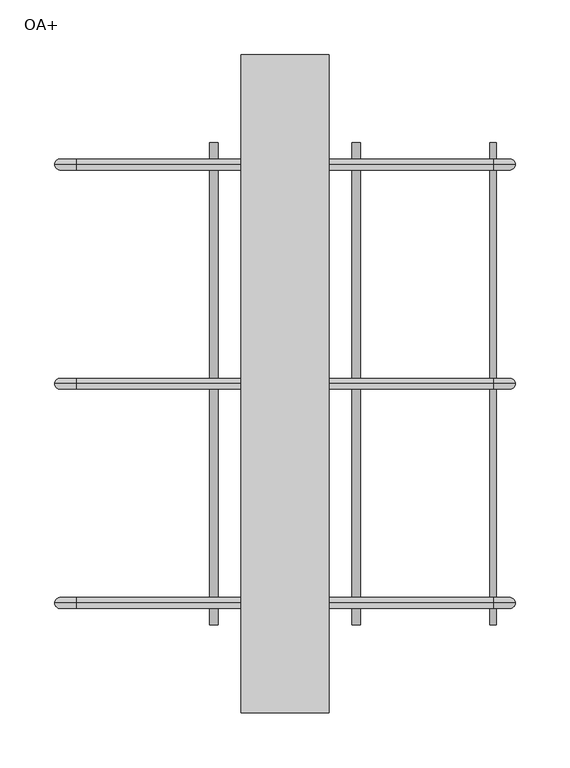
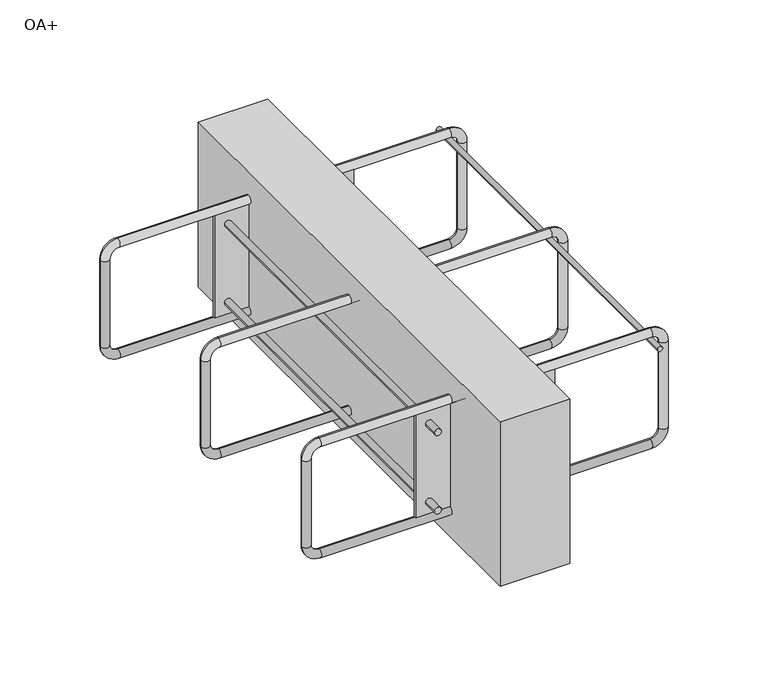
"""IFC4 building model written with IfcOpenShell, lengths in millimetres: proxy geometry, ACINOXplus_Typenreihe_Ux-Ox : OA+."""

import ifcopenshell
import ifcopenshell.guid

model = None  # the IFC model being written
_history = None  # IfcOwnerHistory: only IFC2X3 demands one
_inside = {}  # id of a spatial element -> (the spatial element, [elements in it])
_under = {}  # id of a project, library or spatial element -> (it, [spatial elements below it])
_declared = {}  # id of a project -> (the project, [libraries it declares])
_typed = {}  # id of a type object -> (the type object, [elements of that type])
_made_of = {}  # id of a material, layer set ... -> (it, [elements and type objects made of it])


def new_model(schema):
    """Start an empty IFC model of exactly this schema.

    Asked for "IFC4X3", IfcOpenShell would pick the latest addendum, in which some entities
    have other attributes; the version numbers below select the first issue.
    IFC2X3 requires an IfcOwnerHistory on every rooted entity: one is made here for all.
    """
    global model, _history
    if schema == "IFC4X3":
        model = ifcopenshell.file(schema_version=(4, 3, 0, 0))
    else:
        model = ifcopenshell.file(schema=schema)
    _inside.clear()
    _under.clear()
    _declared.clear()
    _typed.clear()
    _made_of.clear()
    _history = None
    if model.schema == "IFC2X3":
        org = make("IfcOrganization", Name="unknown")
        user = make(
            "IfcPersonAndOrganization",
            ThePerson=make("IfcPerson", FamilyName="unknown"),
            TheOrganization=org,
        )
        app = make(
            "IfcApplication",
            ApplicationDeveloper=org,
            Version="unknown",
            ApplicationFullName="unknown",
            ApplicationIdentifier="unknown",
        )
        _history = make(
            "IfcOwnerHistory",
            OwningUser=user,
            OwningApplication=app,
            ChangeAction="ADDED",
            CreationDate=0,
        )
    return model


def make(cls, **values):
    """One entity of the class cls with the attributes given. An attribute that is None is left unset."""
    return model.create_entity(
        cls, **{name: value for name, value in values.items() if value is not None}
    )


def rooted(cls, **values):
    """An entity with a GlobalId (a new one), such as an element, a storey or a relation."""
    return make(cls, GlobalId=ifcopenshell.guid.new(), OwnerHistory=_history, **values)


def si_unit(unit_type, name, prefix=None):
    """IfcSIUnit, for example si_unit("LENGTHUNIT", "METRE", prefix="MILLI")."""
    return make("IfcSIUnit", UnitType=unit_type, Prefix=prefix, Name=name)


def assignment(units):
    """IfcUnitAssignment: the units of a project."""
    return None if units is None else make("IfcUnitAssignment", Units=units)


def point(xyz):
    """IfcCartesianPoint."""
    return None if xyz is None else make("IfcCartesianPoint", Coordinates=xyz)


def direction(xyz):
    """IfcDirection."""
    return None if xyz is None else make("IfcDirection", DirectionRatios=xyz)


def frame(location, z_axis=None, x_axis=None):
    """IfcAxis2Placement3D, a coordinate frame: its origin and axes. An axis left out is left unset."""
    return make(
        "IfcAxis2Placement3D",
        Location=point(location),
        Axis=direction(z_axis),
        RefDirection=direction(x_axis),
    )


def frame_2d(location, x_axis=None):
    """IfcAxis2Placement2D, a coordinate frame in the plane: its origin and x axis."""
    return make(
        "IfcAxis2Placement2D", Location=point(location), RefDirection=direction(x_axis)
    )


def origin():
    """The frame at (0, 0, 0) with its axes left unset."""
    return frame((0.0, 0.0, 0.0))


def place(relative_to, where):
    """IfcLocalPlacement: puts the frame where relative to a parent placement (None: the world)."""
    return make(
        "IfcLocalPlacement", PlacementRelTo=relative_to, RelativePlacement=where
    )


def context(
    kind, dimensions, precision=None, world=None, true_north=None, identifier=None
):
    """IfcGeometricRepresentationContext, for example the 3D "Model" context."""
    return make(
        "IfcGeometricRepresentationContext",
        ContextIdentifier=identifier,
        ContextType=kind,
        CoordinateSpaceDimension=dimensions,
        Precision=precision,
        WorldCoordinateSystem=world,
        TrueNorth=true_north,
    )


def project(units=None, contexts=None):
    """IfcProject with its units and contexts."""
    return rooted(
        "IfcProject",
        Name="project",
        RepresentationContexts=contexts,
        UnitsInContext=assignment(units),
    )


def spatial(cls, under=None, at=None, **own):
    """A site, building, storey or space (cls), placed at a placement, below another one or the project."""
    s = rooted(cls, ObjectPlacement=at, **own)
    if under is not None:
        _under.setdefault(under.id(), (under, []))[1].append(s)
    return s


def polyline(points):
    """IfcPolyline through the points."""
    return make("IfcPolyline", Points=[point(p) for p in points])


def circle_curve(where, radius):
    """IfcCircle in the frame where."""
    return make("IfcCircle", Position=where, Radius=radius)


def ellipse_curve(where, semi_axis1, semi_axis2):
    """IfcEllipse in the frame where."""
    return make(
        "IfcEllipse", Position=where, SemiAxis1=semi_axis1, SemiAxis2=semi_axis2
    )


def trimmed(basis, trim1, trim2, sense, master):
    """IfcTrimmedCurve: the piece of a basis curve between two trims."""
    return make(
        "IfcTrimmedCurve",
        BasisCurve=basis,
        Trim1=trim1,
        Trim2=trim2,
        SenseAgreement=sense,
        MasterRepresentation=master,
    )


def segment(curve, same_sense, transition):
    """IfcCompositeCurveSegment."""
    return make(
        "IfcCompositeCurveSegment",
        Transition=transition,
        SameSense=same_sense,
        ParentCurve=curve,
    )


def composite_curve(segments, self_intersect=None):
    """IfcCompositeCurve: segments joined end to end."""
    return make("IfcCompositeCurve", Segments=segments, SelfIntersect=self_intersect)


def outline(outer, holes=None, kind="AREA"):
    """IfcArbitraryClosedProfileDef: a profile drawn as a closed curve; with holes, ...WithVoids."""
    if holes is None:
        return make("IfcArbitraryClosedProfileDef", ProfileType=kind, OuterCurve=outer)
    return make(
        "IfcArbitraryProfileDefWithVoids",
        ProfileType=kind,
        OuterCurve=outer,
        InnerCurves=holes,
    )


def extrude(swept, where, along, depth):
    """IfcExtrudedAreaSolid: the profile swept, set in the frame where, extruded along a direction by depth."""
    return make(
        "IfcExtrudedAreaSolid",
        SweptArea=swept,
        Position=where,
        ExtrudedDirection=direction(along),
        Depth=depth,
    )


def shape(context_of_items, identifier, shape_type, items):
    """IfcShapeRepresentation: the items that make up one representation, for example the "Body"."""
    return make(
        "IfcShapeRepresentation",
        ContextOfItems=context_of_items,
        RepresentationIdentifier=identifier,
        RepresentationType=shape_type,
        Items=items,
    )


def source(mapping_origin, context_of_items, identifier, shape_type, items):
    """IfcRepresentationMap: a shape defined once, which mapped items show again and again."""
    return make(
        "IfcRepresentationMap",
        MappingOrigin=mapping_origin,
        MappedRepresentation=shape(context_of_items, identifier, shape_type, items),
    )


def transform(
    local_origin,
    x_axis=None,
    y_axis=None,
    z_axis=None,
    scale=None,
    scale2=None,
    scale3=None,
    uniform=True,
):
    """IfcCartesianTransformationOperator3D, or its non-uniform kind. x_axis, y_axis, z_axis: its Axis1, 2, 3."""
    if uniform:
        return make(
            "IfcCartesianTransformationOperator3D",
            Axis1=direction(x_axis),
            Axis2=direction(y_axis),
            LocalOrigin=point(local_origin),
            Scale=scale,
            Axis3=direction(z_axis),
        )
    return make(
        "IfcCartesianTransformationOperator3DnonUniform",
        Axis1=direction(x_axis),
        Axis2=direction(y_axis),
        LocalOrigin=point(local_origin),
        Scale=scale,
        Axis3=direction(z_axis),
        Scale2=scale2,
        Scale3=scale3,
    )


def mapped(mapping_source, mapping_target):
    """IfcMappedItem: shows the shape of a source again, moved by a transform."""
    return make(
        "IfcMappedItem", MappingSource=mapping_source, MappingTarget=mapping_target
    )


def made_of(thing, what):
    """Note that an element or type object is made of a material, layer set ...; save() writes the relation."""
    if what is not None:
        _made_of.setdefault(what.id(), (what, []))[1].append(thing)
    return thing


def element(
    cls,
    number,
    at=None,
    inside=None,
    cuts=None,
    type_object=None,
    material=None,
    context=None,
    identifier="Body",
    shape_type=None,
    held_by="IfcProductDefinitionShape",
    body=None,
    shapes=None,
    **own,
):
    """One element of the class cls, such as IfcWall. Its Tag is "e" and its number.

    at: its placement. inside: the storey or other place that contains it. cuts: it is an
    opening in that element (IfcRelVoidsElement). A single representation is given by context,
    identifier, shape_type and body (its items); several are given by shapes. held_by: the class
    of the entity that holds the representations. save() writes the other relations.
    """
    e = rooted(cls, Tag="e%d" % number, ObjectPlacement=at, **own)
    if body is not None:
        shapes = [shape(context, identifier, shape_type, body)]
    if shapes is not None:
        e.Representation = make(held_by, Representations=shapes)
    if inside is not None:
        _inside.setdefault(inside.id(), (inside, []))[1].append(e)
    if cuts is not None:
        rooted(
            "IfcRelVoidsElement", RelatingBuildingElement=cuts, RelatedOpeningElement=e
        )
    if type_object is not None:
        _typed.setdefault(type_object.id(), (type_object, []))[1].append(e)
    return made_of(e, material)


def aggregate(whole, parts):
    """IfcRelAggregates: a whole, such as a stair, and the parts it consists of."""
    return rooted("IfcRelAggregates", RelatingObject=whole, RelatedObjects=parts)


def save(model, path):
    """Write the relations noted so far, then the file.

    IfcRelAggregates (storeys below a building ...), IfcRelContainedInSpatialStructure (elements
    in a storey), IfcRelDefinesByType, IfcRelAssociatesMaterial and IfcRelDeclares: one each for
    every whole, place, type object, material and project.
    """
    for whole, parts in _under.values():
        aggregate(whole, parts)
    for where, things in _inside.values():
        rooted(
            "IfcRelContainedInSpatialStructure",
            RelatedElements=things,
            RelatingStructure=where,
        )
    for kind, things in _typed.values():
        rooted("IfcRelDefinesByType", RelatedObjects=things, RelatingType=kind)
    for what, things in _made_of.values():
        rooted("IfcRelAssociatesMaterial", RelatedObjects=things, RelatingMaterial=what)
    for by, libraries in _declared.values():
        rooted("IfcRelDeclares", RelatingContext=by, RelatedDefinitions=libraries)
    model.write(path)


def cylinder_surface(at, radius):
    """IfcCylindricalSurface: all points at the distance radius from the z axis of the frame at."""
    return make("IfcCylindricalSurface", Position=at, Radius=radius)


def revolved_surface(curve, axis_point, axis_direction):
    """IfcSurfaceOfRevolution: the curve turned about the line through axis_point along axis_direction."""
    return make(
        "IfcSurfaceOfRevolution",
        SweptCurve=make("IfcArbitraryOpenProfileDef", ProfileType="CURVE", Curve=curve),
        AxisPosition=make("IfcAxis1Placement", Location=point(axis_point), Axis=direction(axis_direction)),
    )


def advanced_brep(points, edges, surfaces, faces):
    """IfcAdvancedBrep: a solid bounded by faces that lie on surfaces and meet in shared edges.

    An edge is (start, end): straight between two places in points (the first is 0);
    or (start, end, curve); or (start, end, curve, False) where it runs against its curve.
    A face is (place in surfaces, loops), or (place, loops, False) where it looks against
    its surface's normal. A loop lists edges by number (the first is 1), with a minus sign
    where the edge is run from its end to its start. The first loop is the outer one.
    """
    corners = [point(p) for p in points]
    vertices = [make("IfcVertexPoint", VertexGeometry=c) for c in corners]
    made = []
    for start, end, *more in edges:
        made.append(
            make(
                "IfcEdgeCurve",
                EdgeStart=vertices[start],
                EdgeEnd=vertices[end],
                EdgeGeometry=more[0] if more else make("IfcPolyline", Points=[corners[start], corners[end]]),
                SameSense=more[1] if len(more) > 1 else True,
            )
        )
    hull = []
    for where, loops, *sense in faces:
        bounds = []
        for j, loop in enumerate(loops):
            ring = [make("IfcOrientedEdge", EdgeElement=made[abs(k) - 1], Orientation=k > 0) for k in loop]
            bounds.append(
                make(
                    "IfcFaceOuterBound" if j == 0 else "IfcFaceBound",
                    Bound=make("IfcEdgeLoop", EdgeList=ring),
                    Orientation=True,
                )
            )
        hull.append(make("IfcAdvancedFace", Bounds=bounds, FaceSurface=surfaces[where], SameSense=sense[0] if sense else True))
    return make("IfcAdvancedBrep", Outer=make("IfcClosedShell", CfsFaces=hull))


def oa_9b1914af(model_context):
    return source(origin(), model_context, "Body", "SolidModel", [
        extrude(outline(composite_curve([segment(trimmed(circle_curve(frame_2d((-40.5, 190.0)), 3.0), [point((-40.5, 193.0))], [point((-40.5, 187.0))], False, "CARTESIAN"), True, "CONTINUOUS"), segment(trimmed(circle_curve(frame_2d((-40.5, 190.0)), 3.0), [point((-40.5, 187.0))], [point((-40.5, 193.0))], False, "CARTESIAN"), True, "CONTINUOUS")], self_intersect=False)), frame((0.0, -220.0, 0.0), z_axis=(0.0, 1.0, 0.0), x_axis=(0.0, 0.0, 1.0)), (0.0, 0.0, 1.0), 440.0),
        extrude(outline(polyline([(40.0, 300.0), (40.0, -300.0), (-40.0, -300.0), (-40.0, 300.0), (40.0, 300.0)])), frame((0.0, 0.0, -200.0), z_axis=(0.0, 0.0, 1.0), x_axis=(1.0, 0.0, 0.0)), (0.0, 0.0, 1.0), 200.0),
        extrude(outline(polyline([(80.0, -198.5), (80.0, -201.5), (-80.0, -201.5), (-80.0, -198.5), (80.0, -198.5)])), frame((0.0, 0.0, -162.5), z_axis=(0.0, 0.0, 1.0), x_axis=(1.0, 0.0, 0.0)), (0.0, 0.0, 1.0), 125.0),
        extrude(outline(polyline([(80.0, 201.5), (80.0, 198.5), (-80.0, 198.5), (-80.0, 201.5), (80.0, 201.5)])), frame((0.0, 0.0, -162.5), z_axis=(0.0, 0.0, 1.0), x_axis=(1.0, 0.0, 0.0)), (0.0, 0.0, 1.0), 125.0),
        extrude(outline(composite_curve([segment(trimmed(circle_curve(frame_2d((-147.5, -65.0)), 4.0), [point((-147.5, -69.0))], [point((-147.5, -61.0))], False, "CARTESIAN"), True, "CONTINUOUS"), segment(trimmed(circle_curve(frame_2d((-147.5, -65.0)), 4.0), [point((-147.5, -61.0))], [point((-147.5, -69.0))], False, "CARTESIAN"), True, "CONTINUOUS")], self_intersect=False)), frame((0.0, 201.5, 0.0), z_axis=(0.0, 1.0, 0.0), x_axis=(0.0, 0.0, 1.0)), (0.0, 0.0, 1.0), 18.5),
        extrude(outline(composite_curve([segment(trimmed(circle_curve(frame_2d((-147.5, -65.0)), 4.0), [point((-147.5, -61.0))], [point((-147.5, -69.0))], False, "CARTESIAN"), True, "CONTINUOUS"), segment(trimmed(circle_curve(frame_2d((-147.5, -65.0)), 4.0), [point((-147.5, -69.0))], [point((-147.5, -61.0))], False, "CARTESIAN"), True, "CONTINUOUS")], self_intersect=False)), frame((0.0, -220.0, 0.0), z_axis=(0.0, 1.0, 0.0), x_axis=(0.0, 0.0, 1.0)), (0.0, 0.0, 1.0), 18.5),
        extrude(outline(composite_curve([segment(trimmed(circle_curve(frame_2d((-147.5, -65.0)), 4.0), [point((-147.5, -69.0))], [point((-147.5, -61.0))], False, "CARTESIAN"), True, "CONTINUOUS"), segment(trimmed(circle_curve(frame_2d((-147.5, -65.0)), 4.0), [point((-147.5, -61.0))], [point((-147.5, -69.0))], False, "CARTESIAN"), True, "CONTINUOUS")], self_intersect=False)), frame((0.0, -198.5, 0.0), z_axis=(0.0, 1.0, 0.0), x_axis=(0.0, 0.0, 1.0)), (0.0, 0.0, 1.0), 397.0),
        extrude(outline(composite_curve([segment(trimmed(circle_curve(frame_2d((-147.5, 65.0)), 4.0), [point((-147.5, 61.0))], [point((-147.5, 69.0))], False, "CARTESIAN"), True, "CONTINUOUS"), segment(trimmed(circle_curve(frame_2d((-147.5, 65.0)), 4.0), [point((-147.5, 69.0))], [point((-147.5, 61.0))], False, "CARTESIAN"), True, "CONTINUOUS")], self_intersect=False)), frame((0.0, 201.5, 0.0), z_axis=(0.0, 1.0, 0.0), x_axis=(0.0, 0.0, 1.0)), (0.0, 0.0, 1.0), 18.5),
        extrude(outline(composite_curve([segment(trimmed(circle_curve(frame_2d((-147.5, 65.0)), 4.0), [point((-147.5, 69.0))], [point((-147.5, 61.0))], False, "CARTESIAN"), True, "CONTINUOUS"), segment(trimmed(circle_curve(frame_2d((-147.5, 65.0)), 4.0), [point((-147.5, 61.0))], [point((-147.5, 69.0))], False, "CARTESIAN"), True, "CONTINUOUS")], self_intersect=False)), frame((0.0, -220.0, 0.0), z_axis=(0.0, 1.0, 0.0), x_axis=(0.0, 0.0, 1.0)), (0.0, 0.0, 1.0), 18.5),
        extrude(outline(composite_curve([segment(trimmed(circle_curve(frame_2d((-147.5, 65.0)), 4.0), [point((-147.5, 61.0))], [point((-147.5, 69.0))], False, "CARTESIAN"), True, "CONTINUOUS"), segment(trimmed(circle_curve(frame_2d((-147.5, 65.0)), 4.0), [point((-147.5, 69.0))], [point((-147.5, 61.0))], False, "CARTESIAN"), True, "CONTINUOUS")], self_intersect=False)), frame((0.0, -198.5, 0.0), z_axis=(0.0, 1.0, 0.0), x_axis=(0.0, 0.0, 1.0)), (0.0, 0.0, 1.0), 397.0),
        extrude(outline(composite_curve([segment(trimmed(circle_curve(frame_2d((-52.5, -65.0)), 4.0), [point((-52.5, -69.0))], [point((-52.5, -61.0))], False, "CARTESIAN"), True, "CONTINUOUS"), segment(trimmed(circle_curve(frame_2d((-52.5, -65.0)), 4.0), [point((-52.5, -61.0))], [point((-52.5, -69.0))], False, "CARTESIAN"), True, "CONTINUOUS")], self_intersect=False)), frame((0.0, 201.5, 0.0), z_axis=(0.0, 1.0, 0.0), x_axis=(0.0, 0.0, 1.0)), (0.0, 0.0, 1.0), 18.5),
        extrude(outline(composite_curve([segment(trimmed(circle_curve(frame_2d((-52.5, -65.0)), 4.0), [point((-52.5, -61.0))], [point((-52.5, -69.0))], False, "CARTESIAN"), True, "CONTINUOUS"), segment(trimmed(circle_curve(frame_2d((-52.5, -65.0)), 4.0), [point((-52.5, -69.0))], [point((-52.5, -61.0))], False, "CARTESIAN"), True, "CONTINUOUS")], self_intersect=False)), frame((0.0, -220.0, 0.0), z_axis=(0.0, 1.0, 0.0), x_axis=(0.0, 0.0, 1.0)), (0.0, 0.0, 1.0), 18.5),
        extrude(outline(composite_curve([segment(trimmed(circle_curve(frame_2d((-52.5, -65.0)), 4.0), [point((-52.5, -69.0))], [point((-52.5, -61.0))], False, "CARTESIAN"), True, "CONTINUOUS"), segment(trimmed(circle_curve(frame_2d((-52.5, -65.0)), 4.0), [point((-52.5, -61.0))], [point((-52.5, -69.0))], False, "CARTESIAN"), True, "CONTINUOUS")], self_intersect=False)), frame((0.0, -198.5, 0.0), z_axis=(0.0, 1.0, 0.0), x_axis=(0.0, 0.0, 1.0)), (0.0, 0.0, 1.0), 397.0),
        extrude(outline(composite_curve([segment(trimmed(circle_curve(frame_2d((-52.5, 65.0)), 4.0), [point((-52.5, 61.0))], [point((-52.5, 69.0))], False, "CARTESIAN"), True, "CONTINUOUS"), segment(trimmed(circle_curve(frame_2d((-52.5, 65.0)), 4.0), [point((-52.5, 69.0))], [point((-52.5, 61.0))], False, "CARTESIAN"), True, "CONTINUOUS")], self_intersect=False)), frame((0.0, 201.5, 0.0), z_axis=(0.0, 1.0, 0.0), x_axis=(0.0, 0.0, 1.0)), (0.0, 0.0, 1.0), 18.5),
        extrude(outline(composite_curve([segment(trimmed(circle_curve(frame_2d((-52.5, 65.0)), 4.0), [point((-52.5, 69.0))], [point((-52.5, 61.0))], False, "CARTESIAN"), True, "CONTINUOUS"), segment(trimmed(circle_curve(frame_2d((-52.5, 65.0)), 4.0), [point((-52.5, 61.0))], [point((-52.5, 69.0))], False, "CARTESIAN"), True, "CONTINUOUS")], self_intersect=False)), frame((0.0, -220.0, 0.0), z_axis=(0.0, 1.0, 0.0), x_axis=(0.0, 0.0, 1.0)), (0.0, 0.0, 1.0), 18.5),
        extrude(outline(composite_curve([segment(trimmed(circle_curve(frame_2d((-52.5, 65.0)), 4.0), [point((-52.5, 61.0))], [point((-52.5, 69.0))], False, "CARTESIAN"), True, "CONTINUOUS"), segment(trimmed(circle_curve(frame_2d((-52.5, 65.0)), 4.0), [point((-52.5, 69.0))], [point((-52.5, 61.0))], False, "CARTESIAN"), True, "CONTINUOUS")], self_intersect=False)), frame((0.0, -198.5, 0.0), z_axis=(0.0, 1.0, 0.0), x_axis=(0.0, 0.0, 1.0)), (0.0, 0.0, 1.0), 397.0),
        advanced_brep(
        [(190.0, 0.0, -37.5), (190.0, 0.0, -27.5), (-190.0, 0.0, -27.5), (-190.0, 0.0, -37.5), (-200.0, 0.0, -47.5), (-210.0, 0.0, -47.5), (-210.0, 0.0, -152.5), (-200.0, 0.0, -152.5), (-190.0, 0.0, -162.5), (-190.0, 0.0, -172.5), (190.0, 0.0, -172.5), (190.0, 0.0, -162.5), (200.0, 0.0, -152.5), (210.0, 0.0, -152.5), (210.0, 0.0, -47.5), (200.0, 0.0, -47.5)],
        [
            (0, 1, circle_curve(frame((190.0, 0.0, -32.5), z_axis=(-1.0, 0.0, 0.0), x_axis=(0.0, 0.0, -1.0)), 5.0)),
            (1, 2),
            (2, 3, circle_curve(frame((-190.0, 0.0, -32.5), z_axis=(1.0, 0.0, 0.0), x_axis=(0.0, 0.0, -1.0)), 5.0)),
            (3, 0),
            (1, 0, circle_curve(frame((190.0, 0.0, -32.5), z_axis=(-1.0, 0.0, 0.0), x_axis=(0.0, 0.0, -1.0)), 5.0)),
            (3, 2, circle_curve(frame((-190.0, 0.0, -32.5), z_axis=(1.0, 0.0, 0.0), x_axis=(0.0, 0.0, -1.0)), 5.0)),
            (4, 3, circle_curve(frame((-190.0, 0.0, -47.5), z_axis=(0.0, 1.0, 0.0), x_axis=(0.0, 0.0, 1.0)), 10.0)),
            (2, 5, circle_curve(frame((-190.0, 0.0, -47.5), z_axis=(0.0, -1.0, 0.0), x_axis=(0.0, 0.0, 1.0)), 20.0)),
            (5, 4, circle_curve(frame((-205.0, 0.0, -47.5), z_axis=(0.0, 0.0, 1.0), x_axis=(1.0, 0.0, 0.0)), 5.0)),
            (4, 5, circle_curve(frame((-205.0, 0.0, -47.5), z_axis=(0.0, 0.0, 1.0), x_axis=(1.0, 0.0, 0.0)), 5.0)),
            (5, 6),
            (6, 7, circle_curve(frame((-205.0, 0.0, -152.5), z_axis=(0.0, 0.0, 1.0), x_axis=(1.0, 0.0, 0.0)), 5.0)),
            (7, 4),
            (7, 6, circle_curve(frame((-205.0, 0.0, -152.5), z_axis=(0.0, 0.0, 1.0), x_axis=(1.0, 0.0, 0.0)), 5.0)),
            (8, 7, circle_curve(frame((-190.0, 0.0, -152.5), z_axis=(0.0, 1.0, 0.0), x_axis=(-1.0, 0.0, 0.0)), 10.0)),
            (6, 9, circle_curve(frame((-190.0, 0.0, -152.5), z_axis=(0.0, -1.0, 0.0), x_axis=(-1.0, 0.0, 0.0)), 20.0)),
            (9, 8, circle_curve(frame((-190.0, 0.0, -167.5), z_axis=(-1.0, 0.0, 0.0), x_axis=(0.0, 0.0, 1.0)), 5.0)),
            (8, 9, circle_curve(frame((-190.0, 0.0, -167.5), z_axis=(-1.0, 0.0, 0.0), x_axis=(0.0, 0.0, 1.0)), 5.0)),
            (9, 10),
            (10, 11, circle_curve(frame((190.0, 0.0, -167.5), z_axis=(-1.0, 0.0, 0.0), x_axis=(0.0, 0.0, 1.0)), 5.0)),
            (11, 8),
            (11, 10, circle_curve(frame((190.0, 0.0, -167.5), z_axis=(-1.0, 0.0, 0.0), x_axis=(0.0, 0.0, 1.0)), 5.0)),
            (12, 11, circle_curve(frame((190.0, 0.0, -152.5), z_axis=(0.0, 1.0, 0.0), x_axis=(0.0, 0.0, -1.0)), 10.0)),
            (10, 13, circle_curve(frame((190.0, 0.0, -152.5), z_axis=(0.0, -1.0, 0.0), x_axis=(0.0, 0.0, -1.0)), 20.0)),
            (13, 12, circle_curve(frame((205.0, 0.0, -152.5), z_axis=(0.0, 0.0, -1.0), x_axis=(-1.0, 0.0, 0.0)), 5.0)),
            (12, 13, circle_curve(frame((205.0, 0.0, -152.5), z_axis=(0.0, 0.0, -1.0), x_axis=(-1.0, 0.0, 0.0)), 5.0)),
            (13, 14),
            (14, 15, circle_curve(frame((205.0, 0.0, -47.5), z_axis=(0.0, 0.0, -1.0), x_axis=(-1.0, 0.0, 0.0)), 5.0)),
            (15, 12),
            (15, 14, circle_curve(frame((205.0, 0.0, -47.5), z_axis=(0.0, 0.0, -1.0), x_axis=(-1.0, 0.0, 0.0)), 5.0)),
            (0, 15, circle_curve(frame((190.0, 0.0, -47.5), z_axis=(0.0, 1.0, 0.0), x_axis=(1.0, 0.0, 0.0)), 10.0)),
            (14, 1, circle_curve(frame((190.0, 0.0, -47.5), z_axis=(0.0, -1.0, 0.0), x_axis=(1.0, 0.0, 0.0)), 20.0)),
        ],
        [
            cylinder_surface(frame((190.0, 0.0, -32.5), z_axis=(1.0, 0.0, 0.0), x_axis=(0.0, 0.0, -1.0)), 5.0),
            revolved_surface(trimmed(ellipse_curve(frame((-190.0, 0.0, -32.5), z_axis=(1.0, 0.0, 0.0), x_axis=(0.0, 0.0, -1.0)), 5.0, 5.0), [point((-190.0, 0.0, -27.5))], [point((-190.0, 0.0, -37.5))], True, "CARTESIAN"), (-190.0, 0.0, -47.5), (0.0, -1.0, 0.0)),
            revolved_surface(trimmed(ellipse_curve(frame((-190.0, 0.0, -32.5), z_axis=(1.0, 0.0, 0.0), x_axis=(0.0, 0.0, -1.0)), 5.0, 5.0), [point((-190.0, 0.0, -37.5))], [point((-190.0, 0.0, -27.5))], True, "CARTESIAN"), (-190.0, 0.0, -47.5), (0.0, -1.0, 0.0)),
            cylinder_surface(frame((-205.0, 0.0, -47.5), z_axis=(0.0, 0.0, 1.0), x_axis=(1.0, 0.0, 0.0)), 5.0),
            revolved_surface(trimmed(ellipse_curve(frame((-205.0, 0.0, -152.5), z_axis=(0.0, 0.0, 1.0), x_axis=(1.0, 0.0, 0.0)), 5.0, 5.0), [point((-210.0, 0.0, -152.5))], [point((-200.0, 0.0, -152.5))], True, "CARTESIAN"), (-190.0, 0.0, -152.5), (0.0, -1.0, 0.0)),
            revolved_surface(trimmed(ellipse_curve(frame((-205.0, 0.0, -152.5), z_axis=(0.0, 0.0, 1.0), x_axis=(1.0, 0.0, 0.0)), 5.0, 5.0), [point((-200.0, 0.0, -152.5))], [point((-210.0, 0.0, -152.5))], True, "CARTESIAN"), (-190.0, 0.0, -152.5), (0.0, -1.0, 0.0)),
            cylinder_surface(frame((-190.0, 0.0, -167.5), z_axis=(-1.0, 0.0, 0.0), x_axis=(0.0, 0.0, 1.0)), 5.0),
            revolved_surface(trimmed(ellipse_curve(frame((190.0, 0.0, -167.5), z_axis=(-1.0, 0.0, 0.0), x_axis=(0.0, 0.0, 1.0)), 5.0, 5.0), [point((190.0, 0.0, -172.5))], [point((190.0, 0.0, -162.5))], True, "CARTESIAN"), (190.0, 0.0, -152.5), (0.0, -1.0, 0.0)),
            revolved_surface(trimmed(ellipse_curve(frame((190.0, 0.0, -167.5), z_axis=(-1.0, 0.0, 0.0), x_axis=(0.0, 0.0, 1.0)), 5.0, 5.0), [point((190.0, 0.0, -162.5))], [point((190.0, 0.0, -172.5))], True, "CARTESIAN"), (190.0, 0.0, -152.5), (0.0, -1.0, 0.0)),
            cylinder_surface(frame((205.0, 0.0, -152.5), z_axis=(0.0, 0.0, -1.0), x_axis=(-1.0, 0.0, 0.0)), 5.0),
            revolved_surface(trimmed(ellipse_curve(frame((205.0, 0.0, -47.5), z_axis=(0.0, 0.0, -1.0), x_axis=(-1.0, 0.0, 0.0)), 5.0, 5.0), [point((210.0, 0.0, -47.5))], [point((200.0, 0.0, -47.5))], True, "CARTESIAN"), (190.0, 0.0, -47.5), (0.0, -1.0, 0.0)),
            revolved_surface(trimmed(ellipse_curve(frame((205.0, 0.0, -47.5), z_axis=(0.0, 0.0, -1.0), x_axis=(-1.0, 0.0, 0.0)), 5.0, 5.0), [point((200.0, 0.0, -47.5))], [point((210.0, 0.0, -47.5))], True, "CARTESIAN"), (190.0, 0.0, -47.5), (0.0, -1.0, 0.0)),
        ],
        [
            (0, [[1, 2, 3, 4]]),
            (0, [[5, -4, 6, -2]]),
            (1, [[7, -3, 8, 9]]),
            (2, [[-8, -6, -7, 10]]),
            (3, [[-9, 11, 12, 13]]),
            (3, [[-10, -13, 14, -11]]),
            (4, [[15, -12, 16, 17]]),
            (5, [[-16, -14, -15, 18]]),
            (6, [[-17, 19, 20, 21]]),
            (6, [[-18, -21, 22, -19]]),
            (7, [[23, -20, 24, 25]]),
            (8, [[-24, -22, -23, 26]]),
            (9, [[-25, 27, 28, 29]]),
            (9, [[-26, -29, 30, -27]]),
            (10, [[31, -28, 32, -1]]),
            (11, [[-32, -30, -31, -5]]),
        ],
    ),
        advanced_brep(
        [(190.0, 200.0, -37.5), (190.0, 200.0, -27.5), (-190.0, 200.0, -27.5), (-190.0, 200.0, -37.5), (-200.0, 200.0, -47.5), (-210.0, 200.0, -47.5), (-210.0, 200.0, -152.5), (-200.0, 200.0, -152.5), (-190.0, 200.0, -162.5), (-190.0, 200.0, -172.5), (190.0, 200.0, -172.5), (190.0, 200.0, -162.5), (200.0, 200.0, -152.5), (210.0, 200.0, -152.5), (210.0, 200.0, -47.5), (200.0, 200.0, -47.5)],
        [
            (0, 1, circle_curve(frame((190.0, 200.0, -32.5), z_axis=(-1.0, 0.0, 0.0), x_axis=(0.0, 0.0, -1.0)), 5.0)),
            (1, 2),
            (2, 3, circle_curve(frame((-190.0, 200.0, -32.5), z_axis=(1.0, 0.0, 0.0), x_axis=(0.0, 0.0, -1.0)), 5.0)),
            (3, 0),
            (1, 0, circle_curve(frame((190.0, 200.0, -32.5), z_axis=(-1.0, 0.0, 0.0), x_axis=(0.0, 0.0, -1.0)), 5.0)),
            (3, 2, circle_curve(frame((-190.0, 200.0, -32.5), z_axis=(1.0, 0.0, 0.0), x_axis=(0.0, 0.0, -1.0)), 5.0)),
            (4, 3, circle_curve(frame((-190.0, 200.0, -47.5), z_axis=(0.0, 1.0, 0.0), x_axis=(0.0, 0.0, 1.0)), 10.0)),
            (2, 5, circle_curve(frame((-190.0, 200.0, -47.5), z_axis=(0.0, -1.0, 0.0), x_axis=(0.0, 0.0, 1.0)), 20.0)),
            (5, 4, circle_curve(frame((-205.0, 200.0, -47.5), z_axis=(0.0, 0.0, 1.0), x_axis=(1.0, 0.0, 0.0)), 5.0)),
            (4, 5, circle_curve(frame((-205.0, 200.0, -47.5), z_axis=(0.0, 0.0, 1.0), x_axis=(1.0, 0.0, 0.0)), 5.0)),
            (5, 6),
            (6, 7, circle_curve(frame((-205.0, 200.0, -152.5), z_axis=(0.0, 0.0, 1.0), x_axis=(1.0, 0.0, 0.0)), 5.0)),
            (7, 4),
            (7, 6, circle_curve(frame((-205.0, 200.0, -152.5), z_axis=(0.0, 0.0, 1.0), x_axis=(1.0, 0.0, 0.0)), 5.0)),
            (8, 7, circle_curve(frame((-190.0, 200.0, -152.5), z_axis=(0.0, 1.0, 0.0), x_axis=(-1.0, 0.0, 0.0)), 10.0)),
            (6, 9, circle_curve(frame((-190.0, 200.0, -152.5), z_axis=(0.0, -1.0, 0.0), x_axis=(-1.0, 0.0, 0.0)), 20.0)),
            (9, 8, circle_curve(frame((-190.0, 200.0, -167.5), z_axis=(-1.0, 0.0, 0.0), x_axis=(0.0, 0.0, 1.0)), 5.0)),
            (8, 9, circle_curve(frame((-190.0, 200.0, -167.5), z_axis=(-1.0, 0.0, 0.0), x_axis=(0.0, 0.0, 1.0)), 5.0)),
            (9, 10),
            (10, 11, circle_curve(frame((190.0, 200.0, -167.5), z_axis=(-1.0, 0.0, 0.0), x_axis=(0.0, 0.0, 1.0)), 5.0)),
            (11, 8),
            (11, 10, circle_curve(frame((190.0, 200.0, -167.5), z_axis=(-1.0, 0.0, 0.0), x_axis=(0.0, 0.0, 1.0)), 5.0)),
            (12, 11, circle_curve(frame((190.0, 200.0, -152.5), z_axis=(0.0, 1.0, 0.0), x_axis=(0.0, 0.0, -1.0)), 10.0)),
            (10, 13, circle_curve(frame((190.0, 200.0, -152.5), z_axis=(0.0, -1.0, 0.0), x_axis=(0.0, 0.0, -1.0)), 20.0)),
            (13, 12, circle_curve(frame((205.0, 200.0, -152.5), z_axis=(0.0, 0.0, -1.0), x_axis=(-1.0, 0.0, 0.0)), 5.0)),
            (12, 13, circle_curve(frame((205.0, 200.0, -152.5), z_axis=(0.0, 0.0, -1.0), x_axis=(-1.0, 0.0, 0.0)), 5.0)),
            (13, 14),
            (14, 15, circle_curve(frame((205.0, 200.0, -47.5), z_axis=(0.0, 0.0, -1.0), x_axis=(-1.0, 0.0, 0.0)), 5.0)),
            (15, 12),
            (15, 14, circle_curve(frame((205.0, 200.0, -47.5), z_axis=(0.0, 0.0, -1.0), x_axis=(-1.0, 0.0, 0.0)), 5.0)),
            (0, 15, circle_curve(frame((190.0, 200.0, -47.5), z_axis=(0.0, 1.0, 0.0), x_axis=(1.0, 0.0, 0.0)), 10.0)),
            (14, 1, circle_curve(frame((190.0, 200.0, -47.5), z_axis=(0.0, -1.0, 0.0), x_axis=(1.0, 0.0, 0.0)), 20.0)),
        ],
        [
            cylinder_surface(frame((190.0, 200.0, -32.5), z_axis=(1.0, 0.0, 0.0), x_axis=(0.0, 0.0, -1.0)), 5.0),
            revolved_surface(trimmed(ellipse_curve(frame((-190.0, 200.0, -32.5), z_axis=(1.0, 0.0, 0.0), x_axis=(0.0, 0.0, -1.0)), 5.0, 5.0), [point((-190.0, 200.0, -27.5))], [point((-190.0, 200.0, -37.5))], True, "CARTESIAN"), (-190.0, 200.0, -47.5), (0.0, -1.0, 0.0)),
            revolved_surface(trimmed(ellipse_curve(frame((-190.0, 200.0, -32.5), z_axis=(1.0, 0.0, 0.0), x_axis=(0.0, 0.0, -1.0)), 5.0, 5.0), [point((-190.0, 200.0, -37.5))], [point((-190.0, 200.0, -27.5))], True, "CARTESIAN"), (-190.0, 200.0, -47.5), (0.0, -1.0, 0.0)),
            cylinder_surface(frame((-205.0, 200.0, -47.5), z_axis=(0.0, 0.0, 1.0), x_axis=(1.0, 0.0, 0.0)), 5.0),
            revolved_surface(trimmed(ellipse_curve(frame((-205.0, 200.0, -152.5), z_axis=(0.0, 0.0, 1.0), x_axis=(1.0, 0.0, 0.0)), 5.0, 5.0), [point((-210.0, 200.0, -152.5))], [point((-200.0, 200.0, -152.5))], True, "CARTESIAN"), (-190.0, 200.0, -152.5), (0.0, -1.0, 0.0)),
            revolved_surface(trimmed(ellipse_curve(frame((-205.0, 200.0, -152.5), z_axis=(0.0, 0.0, 1.0), x_axis=(1.0, 0.0, 0.0)), 5.0, 5.0), [point((-200.0, 200.0, -152.5))], [point((-210.0, 200.0, -152.5))], True, "CARTESIAN"), (-190.0, 200.0, -152.5), (0.0, -1.0, 0.0)),
            cylinder_surface(frame((-190.0, 200.0, -167.5), z_axis=(-1.0, 0.0, 0.0), x_axis=(0.0, 0.0, 1.0)), 5.0),
            revolved_surface(trimmed(ellipse_curve(frame((190.0, 200.0, -167.5), z_axis=(-1.0, 0.0, 0.0), x_axis=(0.0, 0.0, 1.0)), 5.0, 5.0), [point((190.0, 200.0, -172.5))], [point((190.0, 200.0, -162.5))], True, "CARTESIAN"), (190.0, 200.0, -152.5), (0.0, -1.0, 0.0)),
            revolved_surface(trimmed(ellipse_curve(frame((190.0, 200.0, -167.5), z_axis=(-1.0, 0.0, 0.0), x_axis=(0.0, 0.0, 1.0)), 5.0, 5.0), [point((190.0, 200.0, -162.5))], [point((190.0, 200.0, -172.5))], True, "CARTESIAN"), (190.0, 200.0, -152.5), (0.0, -1.0, 0.0)),
            cylinder_surface(frame((205.0, 200.0, -152.5), z_axis=(0.0, 0.0, -1.0), x_axis=(-1.0, 0.0, 0.0)), 5.0),
            revolved_surface(trimmed(ellipse_curve(frame((205.0, 200.0, -47.5), z_axis=(0.0, 0.0, -1.0), x_axis=(-1.0, 0.0, 0.0)), 5.0, 5.0), [point((210.0, 200.0, -47.5))], [point((200.0, 200.0, -47.5))], True, "CARTESIAN"), (190.0, 200.0, -47.5), (0.0, -1.0, 0.0)),
            revolved_surface(trimmed(ellipse_curve(frame((205.0, 200.0, -47.5), z_axis=(0.0, 0.0, -1.0), x_axis=(-1.0, 0.0, 0.0)), 5.0, 5.0), [point((200.0, 200.0, -47.5))], [point((210.0, 200.0, -47.5))], True, "CARTESIAN"), (190.0, 200.0, -47.5), (0.0, -1.0, 0.0)),
        ],
        [
            (0, [[1, 2, 3, 4]]),
            (0, [[5, -4, 6, -2]]),
            (1, [[7, -3, 8, 9]]),
            (2, [[-8, -6, -7, 10]]),
            (3, [[-9, 11, 12, 13]]),
            (3, [[-10, -13, 14, -11]]),
            (4, [[15, -12, 16, 17]]),
            (5, [[-16, -14, -15, 18]]),
            (6, [[-17, 19, 20, 21]]),
            (6, [[-18, -21, 22, -19]]),
            (7, [[23, -20, 24, 25]]),
            (8, [[-24, -22, -23, 26]]),
            (9, [[-25, 27, 28, 29]]),
            (9, [[-26, -29, 30, -27]]),
            (10, [[31, -28, 32, -1]]),
            (11, [[-32, -30, -31, -5]]),
        ],
    ),
        advanced_brep(
        [(190.0, -200.0, -37.5), (190.0, -200.0, -27.5), (-190.0, -200.0, -27.5), (-190.0, -200.0, -37.5), (-200.0, -200.0, -47.5), (-210.0, -200.0, -47.5), (-210.0, -200.0, -152.5), (-200.0, -200.0, -152.5), (-190.0, -200.0, -162.5), (-190.0, -200.0, -172.5), (190.0, -200.0, -172.5), (190.0, -200.0, -162.5), (200.0, -200.0, -152.5), (210.0, -200.0, -152.5), (210.0, -200.0, -47.5), (200.0, -200.0, -47.5)],
        [
            (0, 1, circle_curve(frame((190.0, -200.0, -32.5), z_axis=(-1.0, 0.0, 0.0), x_axis=(0.0, 0.0, -1.0)), 5.0)),
            (1, 2),
            (2, 3, circle_curve(frame((-190.0, -200.0, -32.5), z_axis=(1.0, 0.0, 0.0), x_axis=(0.0, 0.0, -1.0)), 5.0)),
            (3, 0),
            (1, 0, circle_curve(frame((190.0, -200.0, -32.5), z_axis=(-1.0, 0.0, 0.0), x_axis=(0.0, 0.0, -1.0)), 5.0)),
            (3, 2, circle_curve(frame((-190.0, -200.0, -32.5), z_axis=(1.0, 0.0, 0.0), x_axis=(0.0, 0.0, -1.0)), 5.0)),
            (4, 3, circle_curve(frame((-190.0, -200.0, -47.5), z_axis=(0.0, 1.0, 0.0), x_axis=(0.0, 0.0, 1.0)), 10.0)),
            (2, 5, circle_curve(frame((-190.0, -200.0, -47.5), z_axis=(0.0, -1.0, 0.0), x_axis=(0.0, 0.0, 1.0)), 20.0)),
            (5, 4, circle_curve(frame((-205.0, -200.0, -47.5), z_axis=(0.0, 0.0, 1.0), x_axis=(1.0, 0.0, 0.0)), 5.0)),
            (4, 5, circle_curve(frame((-205.0, -200.0, -47.5), z_axis=(0.0, 0.0, 1.0), x_axis=(1.0, 0.0, 0.0)), 5.0)),
            (5, 6),
            (6, 7, circle_curve(frame((-205.0, -200.0, -152.5), z_axis=(0.0, 0.0, 1.0), x_axis=(1.0, 0.0, 0.0)), 5.0)),
            (7, 4),
            (7, 6, circle_curve(frame((-205.0, -200.0, -152.5), z_axis=(0.0, 0.0, 1.0), x_axis=(1.0, 0.0, 0.0)), 5.0)),
            (8, 7, circle_curve(frame((-190.0, -200.0, -152.5), z_axis=(0.0, 1.0, 0.0), x_axis=(-1.0, 0.0, 0.0)), 10.0)),
            (6, 9, circle_curve(frame((-190.0, -200.0, -152.5), z_axis=(0.0, -1.0, 0.0), x_axis=(-1.0, 0.0, 0.0)), 20.0)),
            (9, 8, circle_curve(frame((-190.0, -200.0, -167.5), z_axis=(-1.0, 0.0, 0.0), x_axis=(0.0, 0.0, 1.0)), 5.0)),
            (8, 9, circle_curve(frame((-190.0, -200.0, -167.5), z_axis=(-1.0, 0.0, 0.0), x_axis=(0.0, 0.0, 1.0)), 5.0)),
            (9, 10),
            (10, 11, circle_curve(frame((190.0, -200.0, -167.5), z_axis=(-1.0, 0.0, 0.0), x_axis=(0.0, 0.0, 1.0)), 5.0)),
            (11, 8),
            (11, 10, circle_curve(frame((190.0, -200.0, -167.5), z_axis=(-1.0, 0.0, 0.0), x_axis=(0.0, 0.0, 1.0)), 5.0)),
            (12, 11, circle_curve(frame((190.0, -200.0, -152.5), z_axis=(0.0, 1.0, 0.0), x_axis=(0.0, 0.0, -1.0)), 10.0)),
            (10, 13, circle_curve(frame((190.0, -200.0, -152.5), z_axis=(0.0, -1.0, 0.0), x_axis=(0.0, 0.0, -1.0)), 20.0)),
            (13, 12, circle_curve(frame((205.0, -200.0, -152.5), z_axis=(0.0, 0.0, -1.0), x_axis=(-1.0, 0.0, 0.0)), 5.0)),
            (12, 13, circle_curve(frame((205.0, -200.0, -152.5), z_axis=(0.0, 0.0, -1.0), x_axis=(-1.0, 0.0, 0.0)), 5.0)),
            (13, 14),
            (14, 15, circle_curve(frame((205.0, -200.0, -47.5), z_axis=(0.0, 0.0, -1.0), x_axis=(-1.0, 0.0, 0.0)), 5.0)),
            (15, 12),
            (15, 14, circle_curve(frame((205.0, -200.0, -47.5), z_axis=(0.0, 0.0, -1.0), x_axis=(-1.0, 0.0, 0.0)), 5.0)),
            (0, 15, circle_curve(frame((190.0, -200.0, -47.5), z_axis=(0.0, 1.0, 0.0), x_axis=(1.0, 0.0, 0.0)), 10.0)),
            (14, 1, circle_curve(frame((190.0, -200.0, -47.5), z_axis=(0.0, -1.0, 0.0), x_axis=(1.0, 0.0, 0.0)), 20.0)),
        ],
        [
            cylinder_surface(frame((190.0, -200.0, -32.5), z_axis=(1.0, 0.0, 0.0), x_axis=(0.0, 0.0, -1.0)), 5.0),
            revolved_surface(trimmed(ellipse_curve(frame((-190.0, -200.0, -32.5), z_axis=(1.0, 0.0, 0.0), x_axis=(0.0, 0.0, -1.0)), 5.0, 5.0), [point((-190.0, -200.0, -27.5))], [point((-190.0, -200.0, -37.5))], True, "CARTESIAN"), (-190.0, -200.0, -47.5), (0.0, -1.0, 0.0)),
            revolved_surface(trimmed(ellipse_curve(frame((-190.0, -200.0, -32.5), z_axis=(1.0, 0.0, 0.0), x_axis=(0.0, 0.0, -1.0)), 5.0, 5.0), [point((-190.0, -200.0, -37.5))], [point((-190.0, -200.0, -27.5))], True, "CARTESIAN"), (-190.0, -200.0, -47.5), (0.0, -1.0, 0.0)),
            cylinder_surface(frame((-205.0, -200.0, -47.5), z_axis=(0.0, 0.0, 1.0), x_axis=(1.0, 0.0, 0.0)), 5.0),
            revolved_surface(trimmed(ellipse_curve(frame((-205.0, -200.0, -152.5), z_axis=(0.0, 0.0, 1.0), x_axis=(1.0, 0.0, 0.0)), 5.0, 5.0), [point((-210.0, -200.0, -152.5))], [point((-200.0, -200.0, -152.5))], True, "CARTESIAN"), (-190.0, -200.0, -152.5), (0.0, -1.0, 0.0)),
            revolved_surface(trimmed(ellipse_curve(frame((-205.0, -200.0, -152.5), z_axis=(0.0, 0.0, 1.0), x_axis=(1.0, 0.0, 0.0)), 5.0, 5.0), [point((-200.0, -200.0, -152.5))], [point((-210.0, -200.0, -152.5))], True, "CARTESIAN"), (-190.0, -200.0, -152.5), (0.0, -1.0, 0.0)),
            cylinder_surface(frame((-190.0, -200.0, -167.5), z_axis=(-1.0, 0.0, 0.0), x_axis=(0.0, 0.0, 1.0)), 5.0),
            revolved_surface(trimmed(ellipse_curve(frame((190.0, -200.0, -167.5), z_axis=(-1.0, 0.0, 0.0), x_axis=(0.0, 0.0, 1.0)), 5.0, 5.0), [point((190.0, -200.0, -172.5))], [point((190.0, -200.0, -162.5))], True, "CARTESIAN"), (190.0, -200.0, -152.5), (0.0, -1.0, 0.0)),
            revolved_surface(trimmed(ellipse_curve(frame((190.0, -200.0, -167.5), z_axis=(-1.0, 0.0, 0.0), x_axis=(0.0, 0.0, 1.0)), 5.0, 5.0), [point((190.0, -200.0, -162.5))], [point((190.0, -200.0, -172.5))], True, "CARTESIAN"), (190.0, -200.0, -152.5), (0.0, -1.0, 0.0)),
            cylinder_surface(frame((205.0, -200.0, -152.5), z_axis=(0.0, 0.0, -1.0), x_axis=(-1.0, 0.0, 0.0)), 5.0),
            revolved_surface(trimmed(ellipse_curve(frame((205.0, -200.0, -47.5), z_axis=(0.0, 0.0, -1.0), x_axis=(-1.0, 0.0, 0.0)), 5.0, 5.0), [point((210.0, -200.0, -47.5))], [point((200.0, -200.0, -47.5))], True, "CARTESIAN"), (190.0, -200.0, -47.5), (0.0, -1.0, 0.0)),
            revolved_surface(trimmed(ellipse_curve(frame((205.0, -200.0, -47.5), z_axis=(0.0, 0.0, -1.0), x_axis=(-1.0, 0.0, 0.0)), 5.0, 5.0), [point((200.0, -200.0, -47.5))], [point((210.0, -200.0, -47.5))], True, "CARTESIAN"), (190.0, -200.0, -47.5), (0.0, -1.0, 0.0)),
        ],
        [
            (0, [[1, 2, 3, 4]]),
            (0, [[5, -4, 6, -2]]),
            (1, [[7, -3, 8, 9]]),
            (2, [[-8, -6, -7, 10]]),
            (3, [[-9, 11, 12, 13]]),
            (3, [[-10, -13, 14, -11]]),
            (4, [[15, -12, 16, 17]]),
            (5, [[-16, -14, -15, 18]]),
            (6, [[-17, 19, 20, 21]]),
            (6, [[-18, -21, 22, -19]]),
            (7, [[23, -20, 24, 25]]),
            (8, [[-24, -22, -23, 26]]),
            (9, [[-25, 27, 28, 29]]),
            (9, [[-26, -29, 30, -27]]),
            (10, [[31, -28, 32, -1]]),
            (11, [[-32, -30, -31, -5]]),
        ],
    ),
    ])


if __name__ == "__main__":
    model = new_model("IFC4")
    model_context = context("Model", 3, world=origin())
    ifc_project = project(units=[si_unit("LENGTHUNIT", "METRE", prefix="MILLI")], contexts=[model_context])
    site = spatial("IfcSite", under=ifc_project)
    building = spatial("IfcBuilding", under=site)
    placement = place(None, origin())
    oa_shape = oa_9b1914af(model_context)
    element("IfcBuildingElementProxy", 1, Name="ACINOXplus_Typenreihe_Ux-Ox : OA+", ObjectType="ACINOXplus_Typenreihe_Ux-Ox : OA+", at=placement, inside=building, context=model_context, shape_type="MappedRepresentation", body=[
        mapped(oa_shape, transform((0.0, 0.0, 0.0), x_axis=(1.0, 0.0, 0.0), y_axis=(0.0, 1.0, 0.0), z_axis=(0.0, 0.0, 1.0))),
    ])
    save(model, "model.ifc")
